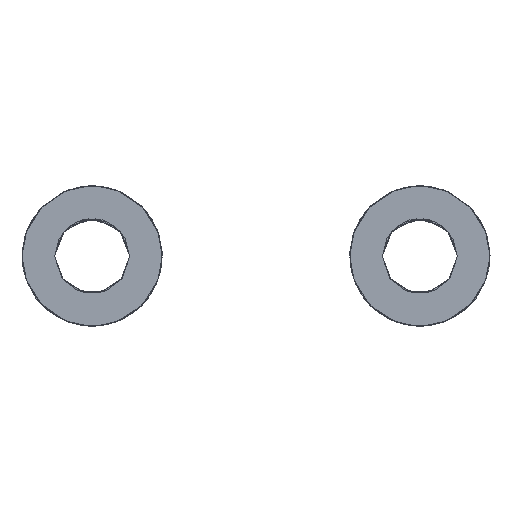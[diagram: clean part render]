
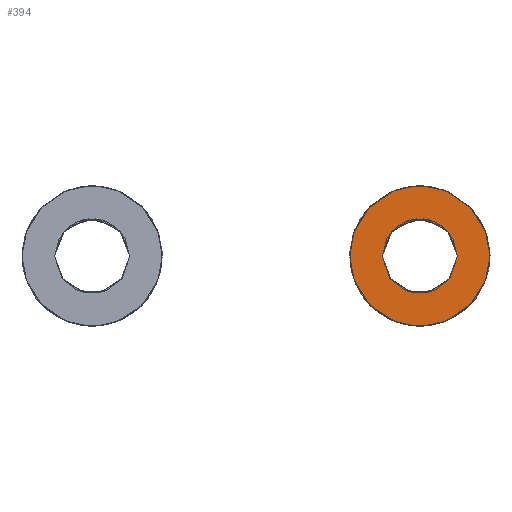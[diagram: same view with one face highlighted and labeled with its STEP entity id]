
A CAD part, left-side view. The second image highlights one B-rep face of the part: STEP entity #394.
In plain terms, the highlighted planar face has unit normal (1, 0, 0).
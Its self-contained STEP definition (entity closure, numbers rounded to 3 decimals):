
#33=FACE_BOUND('',#457,.T.);
#43=PLANE('',#1358);
#394=ADVANCED_FACE('',(#424,#33),#43,.T.);
#424=FACE_OUTER_BOUND('',#456,.T.);
#456=EDGE_LOOP('',(#511));
#457=EDGE_LOOP('',(#512));
#511=ORIENTED_EDGE('',*,*,#991,.T.);
#512=ORIENTED_EDGE('',*,*,#992,.T.);
#605=(
BOUNDED_CURVE()
B_SPLINE_CURVE(2,(#1698,#1699,#1700,#1701,#1702,#1703,#1704,#1705,#1706),
 .UNSPECIFIED.,.T.,.F.)
B_SPLINE_CURVE_WITH_KNOTS((3,2,2,2,3),(0.,1.571,3.142,
4.712,6.283),.UNSPECIFIED.)
CURVE()
GEOMETRIC_REPRESENTATION_ITEM()
RATIONAL_B_SPLINE_CURVE((1.,0.707,1.,0.707,1.,0.707,
1.,0.707,1.))
REPRESENTATION_ITEM('')
);
#606=(
BOUNDED_CURVE()
B_SPLINE_CURVE(2,(#1707,#1708,#1709,#1710,#1711,#1712,#1713,#1714,#1715),
 .UNSPECIFIED.,.T.,.F.)
B_SPLINE_CURVE_WITH_KNOTS((3,2,2,2,3),(0.,1.571,3.142,
4.712,6.283),.UNSPECIFIED.)
CURVE()
GEOMETRIC_REPRESENTATION_ITEM()
RATIONAL_B_SPLINE_CURVE((1.,0.707,1.,0.707,1.,0.707,
1.,0.707,1.))
REPRESENTATION_ITEM('')
);
#607=(
BOUNDED_CURVE()
B_SPLINE_CURVE(2,(#1716,#1717,#1718,#1719,#1720,#1721,#1722,#1723,#1724),
 .UNSPECIFIED.,.T.,.F.)
B_SPLINE_CURVE_WITH_KNOTS((3,2,2,2,3),(3.142,4.712,
6.283,7.854,9.425),.UNSPECIFIED.)
CURVE()
GEOMETRIC_REPRESENTATION_ITEM()
RATIONAL_B_SPLINE_CURVE((1.,0.707,1.,0.707,1.,0.707,
1.,0.707,1.))
REPRESENTATION_ITEM('')
);
#608=(
BOUNDED_CURVE()
B_SPLINE_CURVE(2,(#1725,#1726,#1727,#1728,#1729,#1730,#1731,#1732,#1733),
 .UNSPECIFIED.,.T.,.F.)
B_SPLINE_CURVE_WITH_KNOTS((3,2,2,2,3),(3.142,4.712,
6.283,7.854,9.425),.UNSPECIFIED.)
CURVE()
GEOMETRIC_REPRESENTATION_ITEM()
RATIONAL_B_SPLINE_CURVE((1.,0.707,1.,0.707,1.,0.707,
1.,0.707,1.))
REPRESENTATION_ITEM('')
);
#691=PCURVE('',#43,#791);
#692=PCURVE('',#43,#792);
#791=DEFINITIONAL_REPRESENTATION('',(#606),#2667);
#792=DEFINITIONAL_REPRESENTATION('',(#608),#2667);
#891=SURFACE_CURVE('',#605,(#691),.PCURVE_S1.);
#892=SURFACE_CURVE('',#607,(#692),.PCURVE_S1.);
#991=EDGE_CURVE('',#1211,#1211,#891,.T.);
#992=EDGE_CURVE('',#1212,#1212,#892,.T.);
#1211=VERTEX_POINT('',#1696);
#1212=VERTEX_POINT('',#1697);
#1358=AXIS2_PLACEMENT_3D('',#1695,#1382,$);
#1382=DIRECTION('',(1.,0.,0.));
#1695=CARTESIAN_POINT('',(-782.,-529.4,153.1));
#1696=CARTESIAN_POINT('',(-782.,-535.4,150.1));
#1697=CARTESIAN_POINT('',(-782.,-530.8,150.1));
#1698=CARTESIAN_POINT('',(-782.,-535.4,150.1));
#1699=CARTESIAN_POINT('',(-782.,-535.4,147.1));
#1700=CARTESIAN_POINT('',(-782.,-532.4,147.1));
#1701=CARTESIAN_POINT('',(-782.,-529.4,147.1));
#1702=CARTESIAN_POINT('',(-782.,-529.4,150.1));
#1703=CARTESIAN_POINT('',(-782.,-529.4,153.1));
#1704=CARTESIAN_POINT('',(-782.,-532.4,153.1));
#1705=CARTESIAN_POINT('',(-782.,-535.4,153.1));
#1706=CARTESIAN_POINT('',(-782.,-535.4,150.1));
#1707=CARTESIAN_POINT('',(1.,0.5));
#1708=CARTESIAN_POINT('',(1.,1.));
#1709=CARTESIAN_POINT('',(0.5,1.));
#1710=CARTESIAN_POINT('',(0.,1.));
#1711=CARTESIAN_POINT('',(0.,0.5));
#1712=CARTESIAN_POINT('',(0.,0.));
#1713=CARTESIAN_POINT('',(0.5,0.));
#1714=CARTESIAN_POINT('',(1.,0.));
#1715=CARTESIAN_POINT('',(1.,0.5));
#1716=CARTESIAN_POINT('',(-782.,-530.8,150.1));
#1717=CARTESIAN_POINT('',(-782.,-530.8,148.5));
#1718=CARTESIAN_POINT('',(-782.,-532.4,148.5));
#1719=CARTESIAN_POINT('',(-782.,-534.,148.5));
#1720=CARTESIAN_POINT('',(-782.,-534.,150.1));
#1721=CARTESIAN_POINT('',(-782.,-534.,151.7));
#1722=CARTESIAN_POINT('',(-782.,-532.4,151.7));
#1723=CARTESIAN_POINT('',(-782.,-530.8,151.7));
#1724=CARTESIAN_POINT('',(-782.,-530.8,150.1));
#1725=CARTESIAN_POINT('',(0.233,0.5));
#1726=CARTESIAN_POINT('',(0.233,0.767));
#1727=CARTESIAN_POINT('',(0.5,0.767));
#1728=CARTESIAN_POINT('',(0.767,0.767));
#1729=CARTESIAN_POINT('',(0.767,0.5));
#1730=CARTESIAN_POINT('',(0.767,0.233));
#1731=CARTESIAN_POINT('',(0.5,0.233));
#1732=CARTESIAN_POINT('',(0.233,0.233));
#1733=CARTESIAN_POINT('',(0.233,0.5));
#2667=(
GEOMETRIC_REPRESENTATION_CONTEXT(2)
PARAMETRIC_REPRESENTATION_CONTEXT()
REPRESENTATION_CONTEXT('pspace','')
);
